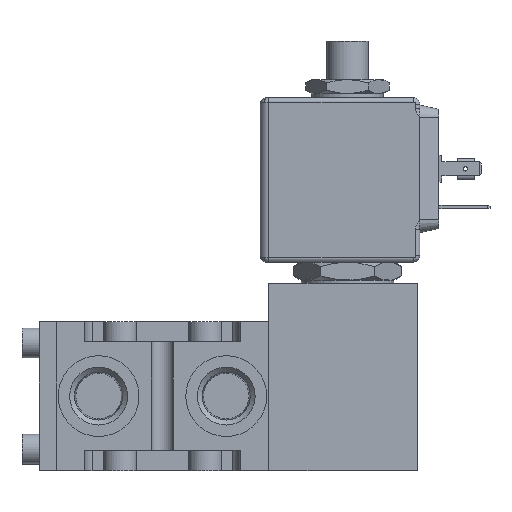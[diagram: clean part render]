
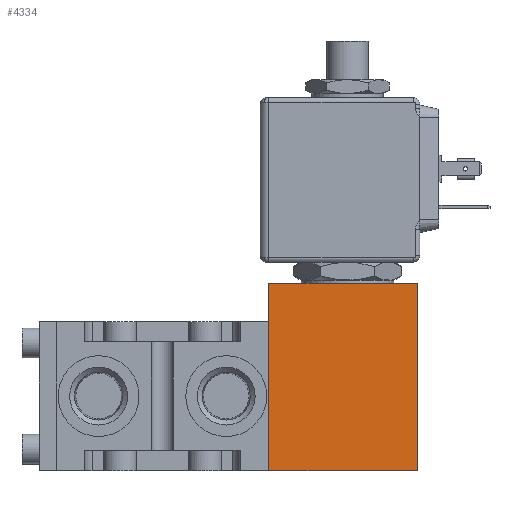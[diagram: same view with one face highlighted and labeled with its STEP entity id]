
A CAD part, front view. The second image highlights one B-rep face of the part: STEP entity #4334.
In plain terms, the highlighted planar face has unit normal (0, -1, 0).
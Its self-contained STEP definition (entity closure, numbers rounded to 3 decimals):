
#143=LINE('',#6321,#557);
#144=LINE('',#6324,#558);
#145=LINE('',#6326,#559);
#146=LINE('',#6328,#560);
#147=LINE('',#6329,#561);
#557=VECTOR('',#5065,35.);
#558=VECTOR('',#5068,34.999);
#559=VECTOR('',#5069,43.999);
#560=VECTOR('',#5070,35.);
#561=VECTOR('',#5071,9.);
#972=PLANE('',#4620);
#1303=FACE_OUTER_BOUND('',#1562,.T.);
#1562=EDGE_LOOP('',(#3097,#3098,#3099,#3100,#3101));
#2063=VERTEX_POINT('',#6315);
#2065=VERTEX_POINT('',#6319);
#2066=VERTEX_POINT('',#6323);
#2067=VERTEX_POINT('',#6325);
#2068=VERTEX_POINT('',#6327);
#2477=EDGE_CURVE('',#2063,#2065,#143,.T.);
#2478=EDGE_CURVE('',#2063,#2066,#144,.T.);
#2479=EDGE_CURVE('',#2067,#2065,#145,.T.);
#2480=EDGE_CURVE('',#2068,#2067,#146,.T.);
#2481=EDGE_CURVE('',#2066,#2068,#147,.T.);
#3097=ORIENTED_EDGE('',*,*,#2478,.F.);
#3098=ORIENTED_EDGE('',*,*,#2477,.T.);
#3099=ORIENTED_EDGE('',*,*,#2479,.F.);
#3100=ORIENTED_EDGE('',*,*,#2480,.F.);
#3101=ORIENTED_EDGE('',*,*,#2481,.F.);
#4334=ADVANCED_FACE('',(#1303),#972,.T.);
#4620=AXIS2_PLACEMENT_3D('',#6322,#5066,#5067);
#5065=DIRECTION('',(1.,0.,0.));
#5066=DIRECTION('center_axis',(0.,-1.,0.));
#5067=DIRECTION('ref_axis',(0.,0.,-1.));
#5068=DIRECTION('',(0.,0.,1.));
#5069=DIRECTION('',(0.,0.,-1.));
#5070=DIRECTION('',(1.,0.,0.));
#5071=DIRECTION('',(0.,0.,1.));
#6315=CARTESIAN_POINT('',(25.,-17.499,-34.999));
#6319=CARTESIAN_POINT('',(60.,-17.499,-34.999));
#6321=CARTESIAN_POINT('',(25.,-17.499,-34.999));
#6322=CARTESIAN_POINT('Origin',(25.,-17.499,9.));
#6323=CARTESIAN_POINT('',(25.,-17.499,0.));
#6324=CARTESIAN_POINT('',(25.,-17.499,4.5));
#6325=CARTESIAN_POINT('',(60.,-17.499,9.));
#6326=CARTESIAN_POINT('',(60.,-17.499,-34.999));
#6327=CARTESIAN_POINT('',(25.,-17.499,9.));
#6328=CARTESIAN_POINT('',(25.,-17.499,9.));
#6329=CARTESIAN_POINT('',(25.,-17.499,-34.999));
